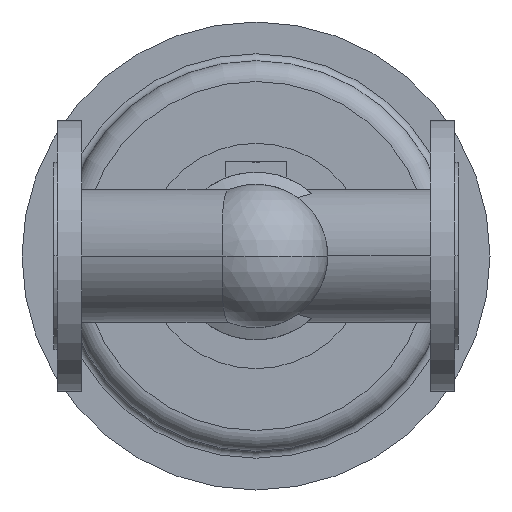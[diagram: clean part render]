
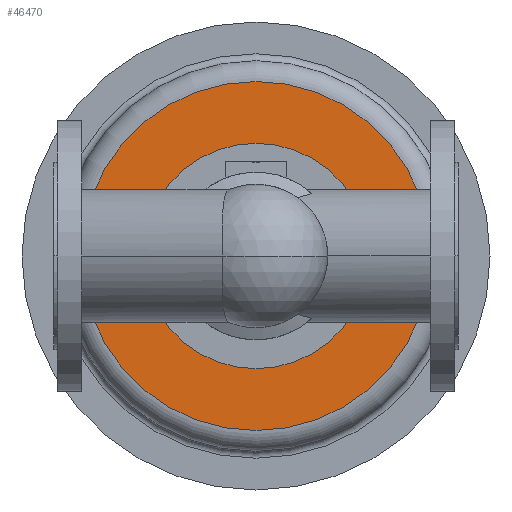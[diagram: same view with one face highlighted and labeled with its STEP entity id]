
A CAD part, front view. The second image highlights one B-rep face of the part: STEP entity #46470.
In plain terms, the highlighted planar face has unit normal (0, -1, 0).
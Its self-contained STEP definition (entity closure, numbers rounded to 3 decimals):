
#35100=CARTESIAN_POINT('',(24.,486.,0.));
#35110=VERTEX_POINT('',#35100);
#35210=CARTESIAN_POINT('',(326.,486.,0.));
#35220=VERTEX_POINT('',#35210);
#35250=CARTESIAN_POINT('',(175.,486.,0.));
#35260=DIRECTION('',(0.,1.,0.));
#35270=DIRECTION('',(1.,0.,0.));
#35280=AXIS2_PLACEMENT_3D('',#35250,#35260,#35270);
#35290=CIRCLE('',#35280,151.);
#35300=CARTESIAN_POINT('',(175.,486.,151.));
#35310=VERTEX_POINT('',#35300);
#35320=EDGE_CURVE('',#35310,#35220,#35290,.T.);
#35340=EDGE_CURVE('',#35110,#35310,#35290,.T.);
#35480=CARTESIAN_POINT('',(270.,486.,0.));
#35490=VERTEX_POINT('',#35480);
#35670=CARTESIAN_POINT('',(80.,486.,0.));
#35680=VERTEX_POINT('',#35670);
#35710=CARTESIAN_POINT('',(175.,486.,0.));
#35720=DIRECTION('',(0.,1.,0.));
#35730=DIRECTION('',(1.,0.,0.));
#35740=AXIS2_PLACEMENT_3D('',#35710,#35720,#35730);
#35750=CIRCLE('',#35740,95.);
#35760=EDGE_CURVE('',#35680,#35490,#35750,.T.);
#46310=CARTESIAN_POINT('',(298.,486.,0.));
#46320=DIRECTION('',(0.,-1.,0.));
#46330=DIRECTION('',(-1.,0.,0.));
#46340=AXIS2_PLACEMENT_3D('',#46310,#46320,#46330);
#46350=PLANE('',#46340);
#46360=ORIENTED_EDGE('',*,*,#35320,.F.);
#46370=EDGE_CURVE('',#35220,#35110,#35290,.T.);
#46380=ORIENTED_EDGE('',*,*,#46370,.F.);
#46390=ORIENTED_EDGE('',*,*,#35340,.F.);
#46400=EDGE_LOOP('',(#46390,#46380,#46360));
#46410=FACE_OUTER_BOUND('',#46400,.T.);
#46420=EDGE_CURVE('',#35490,#35680,#35750,.T.);
#46430=ORIENTED_EDGE('',*,*,#46420,.T.);
#46440=ORIENTED_EDGE('',*,*,#35760,.T.);
#46450=EDGE_LOOP('',(#46440,#46430));
#46460=FACE_BOUND('',#46450,.T.);
#46470=ADVANCED_FACE('',(#46410,#46460),#46350,.T.);
